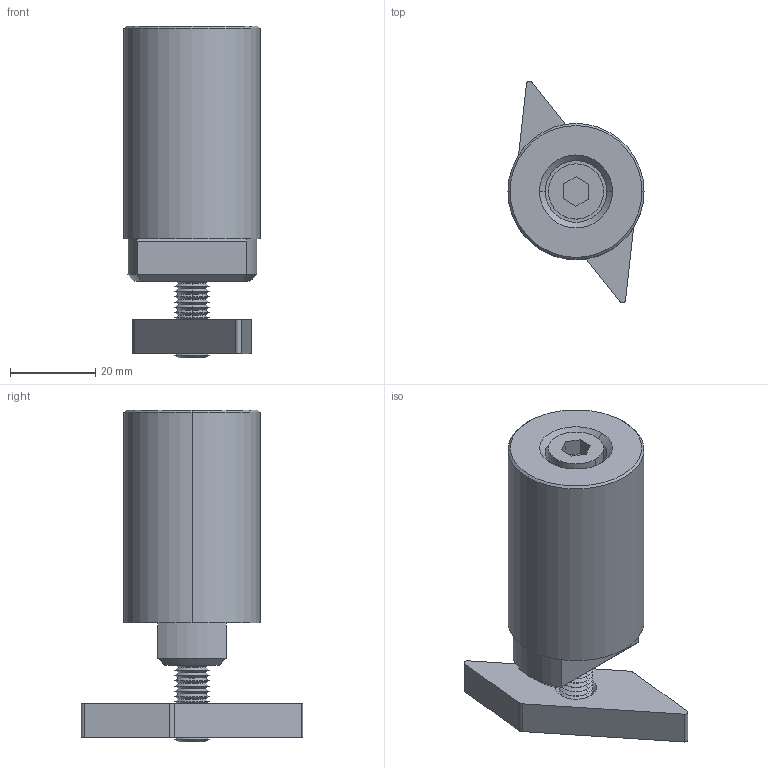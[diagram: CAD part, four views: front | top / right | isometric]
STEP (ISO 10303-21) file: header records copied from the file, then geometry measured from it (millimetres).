
FILE_DESCRIPTION (( 'STEP AP203' ), '1' );
FILE_NAME ('30200.W0216.step', '2017-06-30T11:04:16', ( 'User' ), ( '' ), 'SwSTEP 2.0', 'SolidWorks 2009', '' );
FILE_SCHEMA (( 'CONFIG_CONTROL_DESIGN' ));
Length unit declared in the file: millimetre
Products named in the file (4): 30200.W0216; Part1_30200.W0216; screw_M8x70; Wedge_30200.W0216
Assembly tree (3 placements, depth 2):
  30200.W0216
    screw_M8x70
    Part1_30200.W0216
    Wedge_30200.W0216
Bounding box: 32 x 52.01 x 78 mm (x, y, z)
Volume: 49196.8 mm3; surface area: 14163.3 mm2
Topology: 3 solids, 3 shells, 128 faces, 273 edges, 155 vertices
Faces by surface type: cone 75, plane 34, cylinder 19
Entity records: 3808 total; most frequent: DIRECTION 650, CARTESIAN_POINT 574, ORIENTED_EDGE 546, EDGE_CURVE 273, AXIS2_PLACEMENT_3D 247, VECTOR 156, LINE 156, VERTEX_POINT 155
